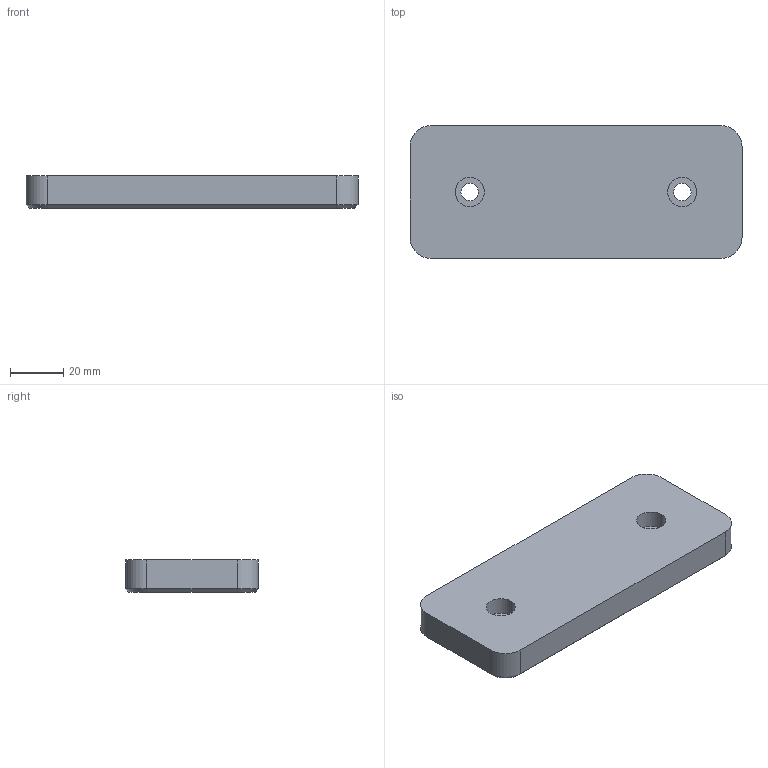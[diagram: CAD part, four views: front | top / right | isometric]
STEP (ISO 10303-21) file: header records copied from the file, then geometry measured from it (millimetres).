
FILE_DESCRIPTION (( 'STEP AP214' ), '1' );
FILE_NAME ('F2680_05012512.STEP', '2024-09-10T07:33:27', ( '' ), ( '' ), 'SwSTEP 2.0', 'SolidWorks 2014', '' );
FILE_SCHEMA (( 'AUTOMOTIVE_DESIGN' ));
Length unit declared in the file: millimetre
Products named in the file (1): F2680_05012512
Bounding box: 125 x 50 x 12.1 mm (x, y, z)
Volume: 73089.2 mm3; surface area: 16768.1 mm2
Topology: 1 solids, 1 shells, 28 faces, 64 edges, 40 vertices
Faces by surface type: cylinder 12, plane 12, cone 4
Entity records: 834 total; most frequent: DIRECTION 150, CARTESIAN_POINT 133, ORIENTED_EDGE 128, EDGE_CURVE 64, AXIS2_PLACEMENT_3D 57, VERTEX_POINT 40, VECTOR 36, LINE 36
